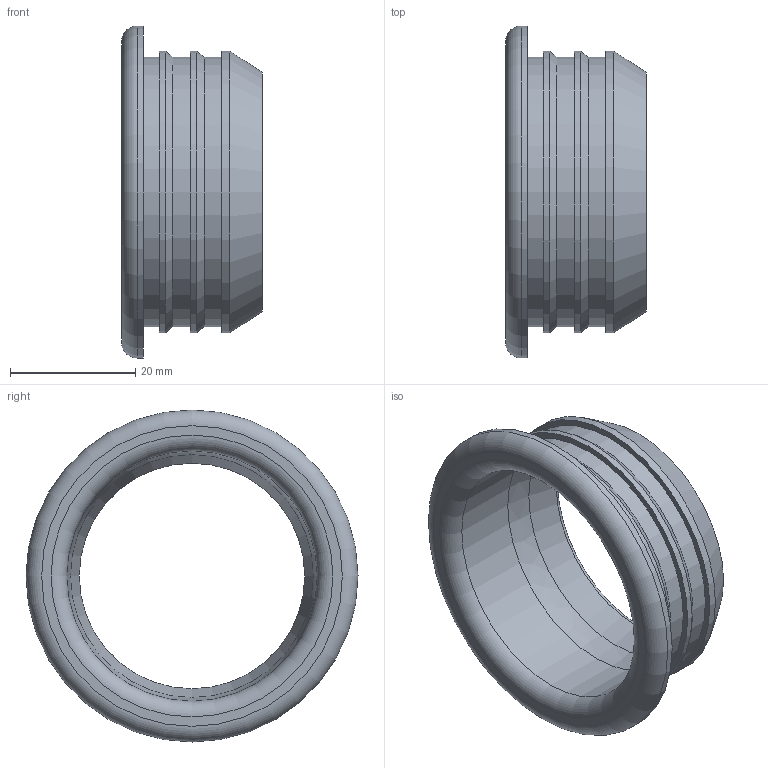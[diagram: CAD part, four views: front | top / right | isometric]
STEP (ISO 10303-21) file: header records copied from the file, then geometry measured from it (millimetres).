
FILE_DESCRIPTION(/* description */ (''),/* implementation_level */ '2;1');
FILE_NAME(/* name */ 'H:\Geberit-Teile\Export\Manschetten ART\stp\152796.stp',/* time_stamp */ '2014-05-12T13:18:58+02:00',/* author */ ('seihe2'),/* organization */ (''),/* preprocessor_version */ 'ST-DEVELOPER v15.2',/* originating_system */ 'Autodesk Inventor 2014',/* authorisation */ '');
FILE_SCHEMA (('AUTOMOTIVE_DESIGN { 1 0 10303 214 3 1 1 }'));
Length unit declared in the file: millimetre
Products named in the file (1): 152796
Bounding box: 22.5 x 53 x 53 mm (x, y, z)
Volume: 7788.3 mm3; surface area: 8101.1 mm2
Topology: 1 solids, 1 shells, 22 faces, 40 edges, 24 vertices
Faces by surface type: cylinder 8, plane 6, cone 4, torus 3, bspline 1
Full cylindrical faces by diameter (mm): 40 x1, 43 x3, 45 x3, 53 x1
Entity records: 537 total; most frequent: CARTESIAN_POINT 100, DIRECTION 92, ORIENTED_EDGE 50, AXIS2_PLACEMENT_3D 46, EDGE_LOOP 43, FACE_BOUND 25, EDGE_CURVE 25, CIRCLE 24
